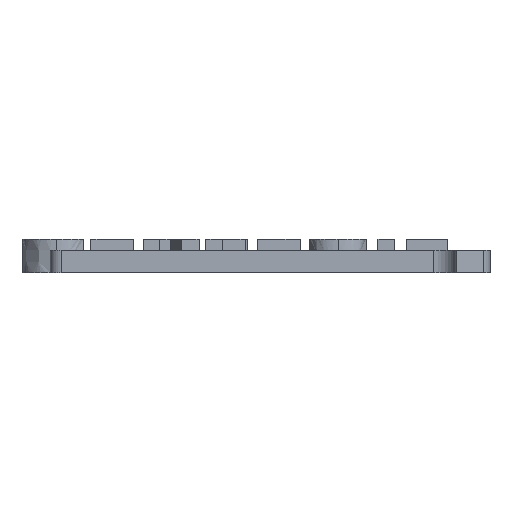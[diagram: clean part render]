
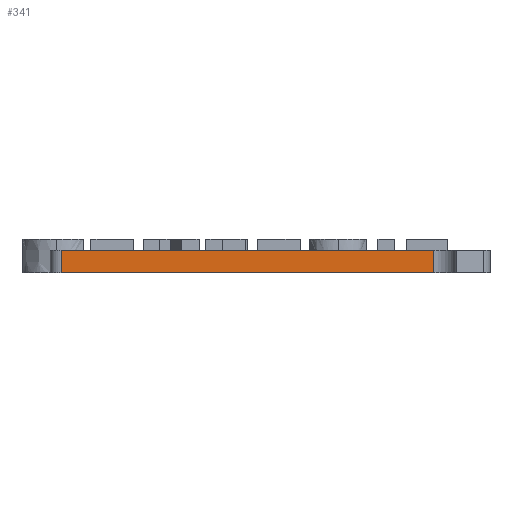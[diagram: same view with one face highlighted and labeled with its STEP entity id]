
A CAD part, front view. The second image highlights one B-rep face of the part: STEP entity #341.
In plain terms, the highlighted planar face has unit normal (0, -1, 0).
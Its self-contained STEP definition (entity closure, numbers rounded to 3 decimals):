
#341=ADVANCED_FACE('',(#674),#675,.T.);
#674=FACE_OUTER_BOUND('',#1018,.T.);
#675=PLANE('',#1019);
#1018=EDGE_LOOP('',(#2093,#2094,#2095,#2096));
#1019=AXIS2_PLACEMENT_3D('',#2097,#2098,#2099);
#2093=ORIENTED_EDGE('',*,*,#2566,.T.);
#2094=ORIENTED_EDGE('',*,*,#2547,.T.);
#2095=ORIENTED_EDGE('',*,*,#2556,.F.);
#2096=ORIENTED_EDGE('',*,*,#2550,.T.);
#2097=CARTESIAN_POINT('',(-21.0,-3.0,0.0));
#2098=DIRECTION('',(0.,-1.0,0.0));
#2099=DIRECTION('',(1.0,0.,0.0));
#2547=EDGE_CURVE('',#3172,#3176,#3178,.T.);
#2550=EDGE_CURVE('',#3182,#3180,#3183,.F.);
#2556=EDGE_CURVE('',#3182,#3176,#3189,.T.);
#2566=EDGE_CURVE('',#3180,#3172,#3201,.T.);
#3172=VERTEX_POINT('',#4220);
#3176=VERTEX_POINT('',#4225);
#3178=LINE('',#4227,#4228);
#3180=VERTEX_POINT('',#4230);
#3182=VERTEX_POINT('',#4232);
#3183=LINE('',#4233,#4234);
#3189=LINE('',#4243,#4244);
#3201=LINE('',#4262,#4263);
#4220=CARTESIAN_POINT('',(-5.0,-3.0,0.0));
#4225=CARTESIAN_POINT('',(-5.0,-3.0,2.0));
#4227=CARTESIAN_POINT('',(-5.0,-3.0,2.0));
#4228=VECTOR('',#4546,1.0);
#4230=CARTESIAN_POINT('',(-38.0,-3.0,0.0));
#4232=CARTESIAN_POINT('',(-38.0,-3.0,2.0));
#4233=CARTESIAN_POINT('',(-38.0,-3.0,0.0));
#4234=VECTOR('',#4550,1.0);
#4243=CARTESIAN_POINT('',(-21.0,-3.0,2.0));
#4244=VECTOR('',#4557,1.0);
#4262=CARTESIAN_POINT('',(-21.0,-3.0,0.0));
#4263=VECTOR('',#4570,1.0);
#4546=DIRECTION('',(0.0,0.0,1.0));
#4550=DIRECTION('',(0.0,0.0,1.0));
#4557=DIRECTION('',(1.0,0.,0.0));
#4570=DIRECTION('',(1.0,0.,0.0));
